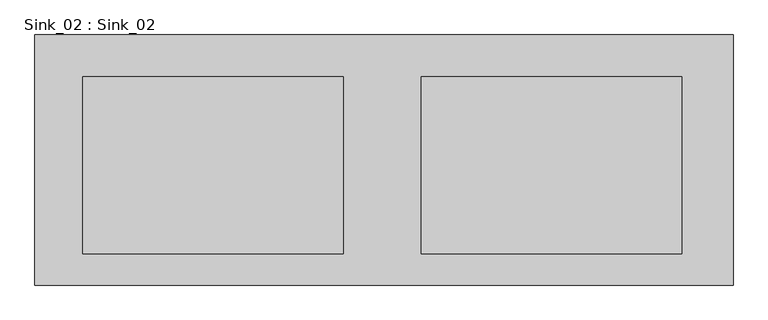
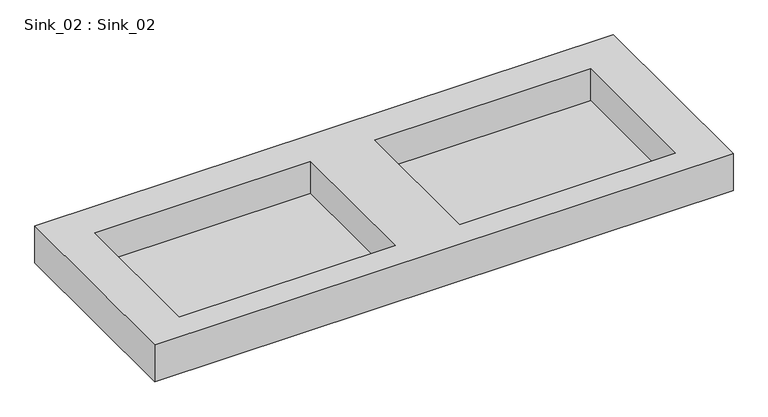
"""IFC4 building model written with IfcOpenShell, lengths in millimetres: flow terminal geometry, Sink_02 : Sink_02."""

import ifcopenshell
import ifcopenshell.guid

model = None  # the IFC model being written
_history = None  # IfcOwnerHistory: only IFC2X3 demands one
_inside = {}  # id of a spatial element -> (the spatial element, [elements in it])
_under = {}  # id of a project, library or spatial element -> (it, [spatial elements below it])
_declared = {}  # id of a project -> (the project, [libraries it declares])
_typed = {}  # id of a type object -> (the type object, [elements of that type])
_made_of = {}  # id of a material, layer set ... -> (it, [elements and type objects made of it])


def new_model(schema):
    """Start an empty IFC model of exactly this schema.

    Asked for "IFC4X3", IfcOpenShell would pick the latest addendum, in which some entities
    have other attributes; the version numbers below select the first issue.
    IFC2X3 requires an IfcOwnerHistory on every rooted entity: one is made here for all.
    """
    global model, _history
    if schema == "IFC4X3":
        model = ifcopenshell.file(schema_version=(4, 3, 0, 0))
    else:
        model = ifcopenshell.file(schema=schema)
    _inside.clear()
    _under.clear()
    _declared.clear()
    _typed.clear()
    _made_of.clear()
    _history = None
    if model.schema == "IFC2X3":
        org = make("IfcOrganization", Name="unknown")
        user = make(
            "IfcPersonAndOrganization",
            ThePerson=make("IfcPerson", FamilyName="unknown"),
            TheOrganization=org,
        )
        app = make(
            "IfcApplication",
            ApplicationDeveloper=org,
            Version="unknown",
            ApplicationFullName="unknown",
            ApplicationIdentifier="unknown",
        )
        _history = make(
            "IfcOwnerHistory",
            OwningUser=user,
            OwningApplication=app,
            ChangeAction="ADDED",
            CreationDate=0,
        )
    return model


def make(cls, **values):
    """One entity of the class cls with the attributes given. An attribute that is None is left unset."""
    return model.create_entity(
        cls, **{name: value for name, value in values.items() if value is not None}
    )


def rooted(cls, **values):
    """An entity with a GlobalId (a new one), such as an element, a storey or a relation."""
    return make(cls, GlobalId=ifcopenshell.guid.new(), OwnerHistory=_history, **values)


def si_unit(unit_type, name, prefix=None):
    """IfcSIUnit, for example si_unit("LENGTHUNIT", "METRE", prefix="MILLI")."""
    return make("IfcSIUnit", UnitType=unit_type, Prefix=prefix, Name=name)


def assignment(units):
    """IfcUnitAssignment: the units of a project."""
    return None if units is None else make("IfcUnitAssignment", Units=units)


def point(xyz):
    """IfcCartesianPoint."""
    return None if xyz is None else make("IfcCartesianPoint", Coordinates=xyz)


def direction(xyz):
    """IfcDirection."""
    return None if xyz is None else make("IfcDirection", DirectionRatios=xyz)


def frame(location, z_axis=None, x_axis=None):
    """IfcAxis2Placement3D, a coordinate frame: its origin and axes. An axis left out is left unset."""
    return make(
        "IfcAxis2Placement3D",
        Location=point(location),
        Axis=direction(z_axis),
        RefDirection=direction(x_axis),
    )


def origin():
    """The frame at (0, 0, 0) with its axes left unset."""
    return frame((0.0, 0.0, 0.0))


def place(relative_to, where):
    """IfcLocalPlacement: puts the frame where relative to a parent placement (None: the world)."""
    return make(
        "IfcLocalPlacement", PlacementRelTo=relative_to, RelativePlacement=where
    )


def context(
    kind, dimensions, precision=None, world=None, true_north=None, identifier=None
):
    """IfcGeometricRepresentationContext, for example the 3D "Model" context."""
    return make(
        "IfcGeometricRepresentationContext",
        ContextIdentifier=identifier,
        ContextType=kind,
        CoordinateSpaceDimension=dimensions,
        Precision=precision,
        WorldCoordinateSystem=world,
        TrueNorth=true_north,
    )


def project(units=None, contexts=None):
    """IfcProject with its units and contexts."""
    return rooted(
        "IfcProject",
        Name="project",
        RepresentationContexts=contexts,
        UnitsInContext=assignment(units),
    )


def spatial(cls, under=None, at=None, **own):
    """A site, building, storey or space (cls), placed at a placement, below another one or the project."""
    s = rooted(cls, ObjectPlacement=at, **own)
    if under is not None:
        _under.setdefault(under.id(), (under, []))[1].append(s)
    return s


def faces_of(points, faces, orient=None, outer=None):
    """IfcFace entities. A face is a list of loops; a loop is a list of indices into points, from 0.

    orient and outer hold one flag for each loop. By default every Orientation is true, the
    first loop of a face is its IfcFaceOuterBound and the others are IfcFaceBound.
    """
    made = []
    for i, loops in enumerate(faces):
        bounds = []
        for j, loop in enumerate(loops):
            is_outer = j == 0 if outer is None else outer[i][j]
            bounds.append(
                make(
                    "IfcFaceOuterBound" if is_outer else "IfcFaceBound",
                    Bound=make("IfcPolyLoop", Polygon=[points[k] for k in loop]),
                    Orientation=True if orient is None else orient[i][j],
                )
            )
        made.append(make("IfcFace", Bounds=bounds))
    return made


def faceted_brep(points, faces, orient=None, outer=None, voids=None):
    """IfcFacetedBrep: a solid bounded by flat faces; with voids (closed shells), ...WithVoids."""
    shared = [point(p) for p in points]
    hull = make("IfcClosedShell", CfsFaces=faces_of(shared, faces, orient, outer))
    if voids is None:
        return make("IfcFacetedBrep", Outer=hull)
    return make(
        "IfcFacetedBrepWithVoids",
        Outer=hull,
        Voids=[
            make(cls, CfsFaces=faces_of(shared, fs, o, b)) for cls, fs, o, b in voids
        ],
    )


def shape(context_of_items, identifier, shape_type, items):
    """IfcShapeRepresentation: the items that make up one representation, for example the "Body"."""
    return make(
        "IfcShapeRepresentation",
        ContextOfItems=context_of_items,
        RepresentationIdentifier=identifier,
        RepresentationType=shape_type,
        Items=items,
    )


def source(mapping_origin, context_of_items, identifier, shape_type, items):
    """IfcRepresentationMap: a shape defined once, which mapped items show again and again."""
    return make(
        "IfcRepresentationMap",
        MappingOrigin=mapping_origin,
        MappedRepresentation=shape(context_of_items, identifier, shape_type, items),
    )


def transform(
    local_origin,
    x_axis=None,
    y_axis=None,
    z_axis=None,
    scale=None,
    scale2=None,
    scale3=None,
    uniform=True,
):
    """IfcCartesianTransformationOperator3D, or its non-uniform kind. x_axis, y_axis, z_axis: its Axis1, 2, 3."""
    if uniform:
        return make(
            "IfcCartesianTransformationOperator3D",
            Axis1=direction(x_axis),
            Axis2=direction(y_axis),
            LocalOrigin=point(local_origin),
            Scale=scale,
            Axis3=direction(z_axis),
        )
    return make(
        "IfcCartesianTransformationOperator3DnonUniform",
        Axis1=direction(x_axis),
        Axis2=direction(y_axis),
        LocalOrigin=point(local_origin),
        Scale=scale,
        Axis3=direction(z_axis),
        Scale2=scale2,
        Scale3=scale3,
    )


def mapped(mapping_source, mapping_target):
    """IfcMappedItem: shows the shape of a source again, moved by a transform."""
    return make(
        "IfcMappedItem", MappingSource=mapping_source, MappingTarget=mapping_target
    )


def made_of(thing, what):
    """Note that an element or type object is made of a material, layer set ...; save() writes the relation."""
    if what is not None:
        _made_of.setdefault(what.id(), (what, []))[1].append(thing)
    return thing


def element(
    cls,
    number,
    at=None,
    inside=None,
    cuts=None,
    type_object=None,
    material=None,
    context=None,
    identifier="Body",
    shape_type=None,
    held_by="IfcProductDefinitionShape",
    body=None,
    shapes=None,
    **own,
):
    """One element of the class cls, such as IfcWall. Its Tag is "e" and its number.

    at: its placement. inside: the storey or other place that contains it. cuts: it is an
    opening in that element (IfcRelVoidsElement). A single representation is given by context,
    identifier, shape_type and body (its items); several are given by shapes. held_by: the class
    of the entity that holds the representations. save() writes the other relations.
    """
    e = rooted(cls, Tag="e%d" % number, ObjectPlacement=at, **own)
    if body is not None:
        shapes = [shape(context, identifier, shape_type, body)]
    if shapes is not None:
        e.Representation = make(held_by, Representations=shapes)
    if inside is not None:
        _inside.setdefault(inside.id(), (inside, []))[1].append(e)
    if cuts is not None:
        rooted(
            "IfcRelVoidsElement", RelatingBuildingElement=cuts, RelatedOpeningElement=e
        )
    if type_object is not None:
        _typed.setdefault(type_object.id(), (type_object, []))[1].append(e)
    return made_of(e, material)


def aggregate(whole, parts):
    """IfcRelAggregates: a whole, such as a stair, and the parts it consists of."""
    return rooted("IfcRelAggregates", RelatingObject=whole, RelatedObjects=parts)


def save(model, path):
    """Write the relations noted so far, then the file.

    IfcRelAggregates (storeys below a building ...), IfcRelContainedInSpatialStructure (elements
    in a storey), IfcRelDefinesByType, IfcRelAssociatesMaterial and IfcRelDeclares: one each for
    every whole, place, type object, material and project.
    """
    for whole, parts in _under.values():
        aggregate(whole, parts)
    for where, things in _inside.values():
        rooted(
            "IfcRelContainedInSpatialStructure",
            RelatedElements=things,
            RelatingStructure=where,
        )
    for kind, things in _typed.values():
        rooted("IfcRelDefinesByType", RelatedObjects=things, RelatingType=kind)
    for what, things in _made_of.values():
        rooted("IfcRelAssociatesMaterial", RelatedObjects=things, RelatingMaterial=what)
    for by, libraries in _declared.values():
        rooted("IfcRelDeclares", RelatingContext=by, RelatedDefinitions=libraries)
    model.write(path)


def sink_02_sink_02_cf3d63df(model_context):
    return source(origin(), model_context, "Body", "Brep", [
        faceted_brep([(3383.526259, 10589.7923102, 8984.0389404), (2043.526259, 10589.7923102, 8984.0389404), (2043.526259, 10109.7923102, 8984.0389404), (3383.526259, 10109.7923102, 8984.0389404), (2135.6282839, 10509.8139768, 8984.0389404), (2635.6282839, 10509.8139768, 8984.0389404), (2635.6282839, 10169.8139768, 8984.0389404), (2135.6282839, 10169.8139768, 8984.0389404), (2784.7682941, 10169.8139768, 8984.0389404), (2784.7682941, 10509.8139768, 8984.0389404), (3284.7682941, 10509.8139768, 8984.0389404), (3284.7682941, 10169.8139768, 8984.0389404), (3383.526259, 10589.7923102, 8893.4345501), (3383.526259, 10109.7923102, 8893.4345501), (2043.526259, 10109.7923102, 8893.4345501), (2043.526259, 10589.7923102, 8893.4345501), (2635.6282839, 10509.8139768, 8905.8545397), (2135.6282839, 10509.8139768, 8905.8545397), (2135.6282839, 10169.8139768, 8905.8545397), (2635.6282839, 10169.8139768, 8905.8545397), (2784.7682941, 10509.8139768, 8905.8545397), (2784.7682941, 10169.8139768, 8905.8545397), (3284.7682941, 10169.8139768, 8905.8545397), (3284.7682941, 10509.8139768, 8905.8545397)], [[[0, 1, 2, 3], [4, 5, 6, 7], [8, 9, 10, 11]], [[12, 13, 14, 15]], [[1, 0, 12, 15]], [[2, 1, 15, 14]], [[3, 2, 14, 13]], [[0, 3, 13, 12]], [[16, 17, 18, 19]], [[20, 21, 22, 23]], [[17, 16, 5, 4]], [[18, 17, 4, 7]], [[19, 18, 7, 6]], [[16, 19, 6, 5]], [[21, 20, 9, 8]], [[22, 21, 8, 11]], [[23, 22, 11, 10]], [[20, 23, 10, 9]]]),
    ])


if __name__ == "__main__":
    model = new_model("IFC4")
    model_context = context("Model", 3, world=origin())
    ifc_project = project(units=[si_unit("LENGTHUNIT", "METRE", prefix="MILLI")], contexts=[model_context])
    site = spatial("IfcSite", under=ifc_project)
    building = spatial("IfcBuilding", under=site)
    placement = place(None, origin())
    sink_02_sink_02_shape = sink_02_sink_02_cf3d63df(model_context)
    element("IfcFlowTerminal", 1, ObjectType="Sink_02 : Sink_02", at=placement, inside=building, context=model_context, shape_type="MappedRepresentation", body=[
        mapped(sink_02_sink_02_shape, transform((0.0, 0.0, 0.0), x_axis=(1.0, 0.0, 0.0), y_axis=(0.0, 1.0, 0.0), z_axis=(0.0, 0.0, 1.0))),
    ])
    save(model, "model.ifc")
